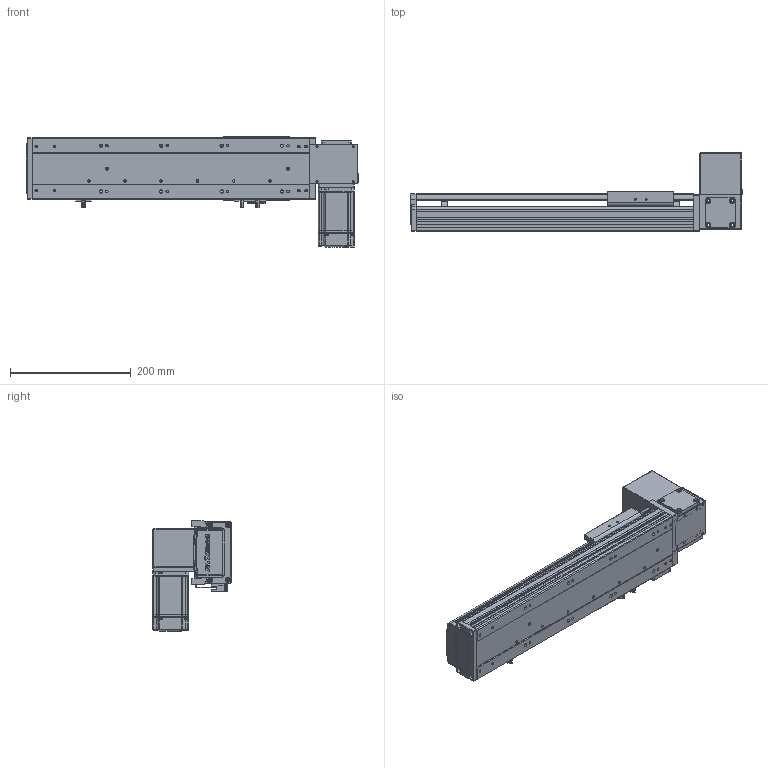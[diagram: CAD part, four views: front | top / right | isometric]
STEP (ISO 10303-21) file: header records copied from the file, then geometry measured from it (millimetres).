
FILE_DESCRIPTION (( 'STEP AP203' ), '1' );
FILE_NAME ('RY100-T-300-UL.SLDASM_250.step', '2024-04-25T08:39:06', ( '盈信电脑' ), ( '东莞市道滘镇水果街19号' ), 'SwSTEP 2.0', 'SolidWorks 2016', '' );
FILE_SCHEMA (( 'CONFIG_CONTROL_DESIGN' ));
Length unit declared in the file: millimetre
Products named in the file (15): RY100-T翋肮祭謫裔啣; RY100-T肮祭謫翋盓傅釱; RY100-T-300-RK倰第菁釱_250; RY100綴裔啣; 覜茼ん672; 1; 滅袉蝶18-10; RY100-T-300-UL.SLDASM_250; RY100-T粣創揤踡裔; RY100-T肮祭謫臏賑輸; RY100-T左右折电机安装板; RY100-T翋肮祭謫裔啣2; RY80-T肮祭謫奻殏俋欶; RY100俋离覜茼え; RY100-T-300-RK倰第奻裔_250
Assembly tree (17 placements, depth 2):
  RY100-T-300-UL.SLDASM_250
    RY100-T-300-RK倰第菁釱_250
    RY100-T-300-RK倰第奻裔_250
    RY100-T肮祭謫臏賑輸
    RY100綴裔啣
    覜茼ん672  x3
    RY100俋离覜茼え
    RY100-T肮祭謫翋盓傅釱
    滅袉蝶18-10  x2
    RY100-T翋肮祭謫裔啣2
    RY100-T翋肮祭謫裔啣
    1
    RY100-T左右折电机安装板
    RY80-T肮祭謫奻殏俋欶
    RY100-T粣創揤踡裔
Bounding box: 550 x 130.5 x 182.5 mm (x, y, z)
Volume: 1430761.2 mm3; surface area: 548006.1 mm2
Topology: 17 solids, 17 shells, 2109 faces, 5824 edges, 3778 vertices
Faces by surface type: plane 1191, cylinder 715, cone 125, bspline 78
Entity records: 66996 total; most frequent: CARTESIAN_POINT 15909, ORIENTED_EDGE 10480, DIRECTION 9990, EDGE_CURVE 5240, LINE 3482, VECTOR 3482, VERTEX_POINT 3446, AXIS2_PLACEMENT_3D 3254
